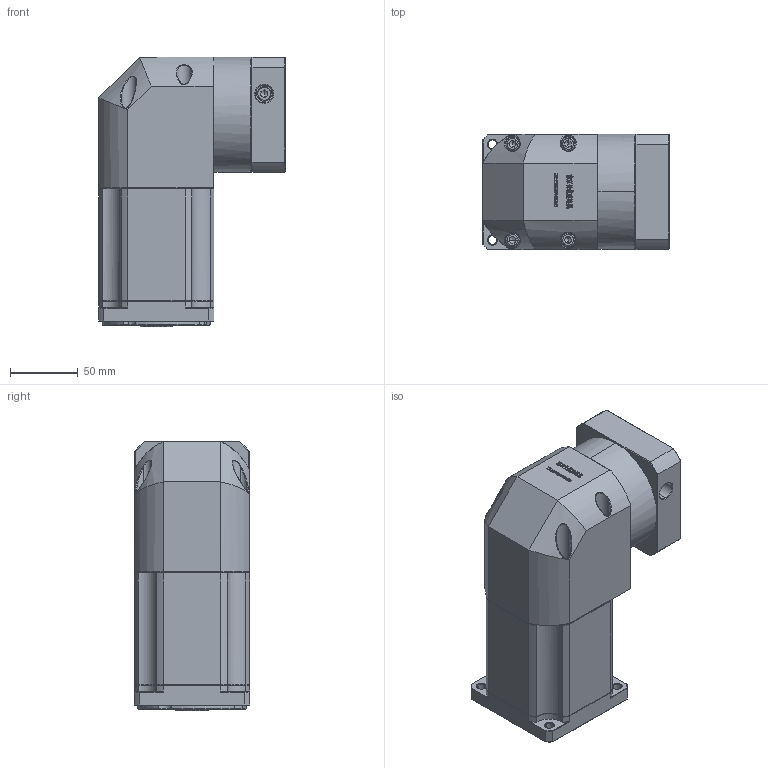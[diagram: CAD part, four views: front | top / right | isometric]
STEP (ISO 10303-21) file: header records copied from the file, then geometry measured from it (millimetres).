
FILE_DESCRIPTION (( 'STEP AP214' ), '1' );
FILE_NAME ('ZBR90-K15-L3-14-73-69.5X69.5-M6.step', '2022-05-07T15:07:27', ( '' ), ( 'Microsoft' ), 'SwSTEP 2.0', 'SolidWorks 2016', '' );
FILE_SCHEMA (( 'AUTOMOTIVE_DESIGN' ));
Length unit declared in the file: millimetre
Products named in the file (1): ZBR90-K15-L3-14-73-69.5X69.5-M6
Bounding box: 137.6 x 85 x 199 mm (x, y, z)
Volume: 1471345.8 mm3; surface area: 143243 mm2
Topology: 5 solids, 5 shells, 2943 faces, 7794 edges, 4984 vertices
Faces by surface type: plane 1570, bspline 596, cylinder 409, cone 344, torus 24
Entity records: 157253 total; most frequent: CARTESIAN_POINT 56567, ORIENTED_EDGE 15516, DIRECTION 11860, EDGE_CURVE 7758, LINE 5224, VECTOR 5224, VERTEX_POINT 4984, AXIS2_PLACEMENT_3D 3318
